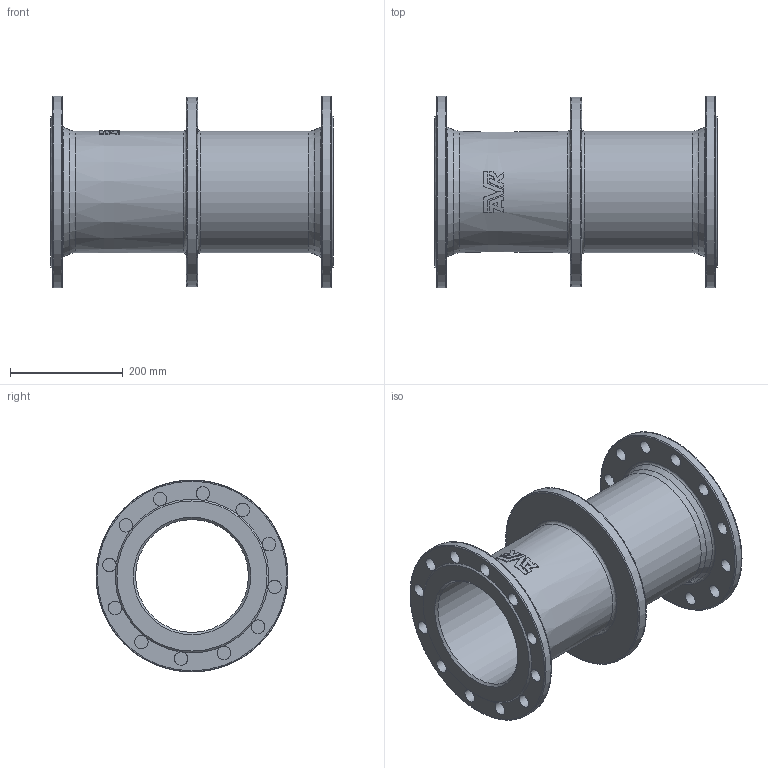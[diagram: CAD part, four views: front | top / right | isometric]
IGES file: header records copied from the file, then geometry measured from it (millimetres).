
Start section: SolidWorks IGES file using analytic representation for surfaces
Global section: file name: \\avksan2\techshare\PBM outline export from Enovia\O_712_6010_DN200_1_AA0.igs; native system: SolidWorks 2012; preprocessor: SolidWorks 2012; author: pbm; date: 190709.113330; units: millimetre
Bounding box: 500 x 340 x 340 mm (x, y, z)
Surface area: 991362 mm2 (no closed solid volume)
Topology: 0 solids, 0 shells, 98 faces, 642 edges, 584 vertices
Faces by surface type: revolution 53, bspline 45
